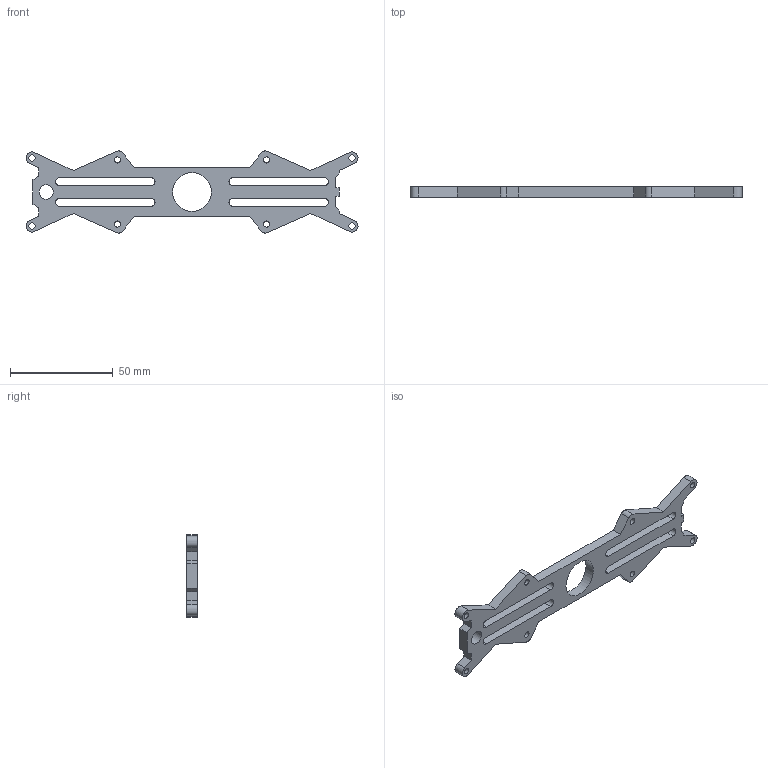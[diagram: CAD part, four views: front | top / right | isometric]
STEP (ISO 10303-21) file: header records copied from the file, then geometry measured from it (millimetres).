
FILE_DESCRIPTION(/* description */ (''),/* implementation_level */ '2;1');
FILE_NAME(/* name */ 'C:/Users/Administrator/Desktop/上盖板支架.step',/* time_stamp */ '2022-06-02T09:47:47+08:00',/* author */ (''),/* organization */ (''),/* preprocessor_version */ 'ST-DEVELOPER v19',/* originating_system */ 'Autodesk Translation Framework v11.7.0.108',/* authorisation */ '');
FILE_SCHEMA (('AUTOMOTIVE_DESIGN { 1 0 10303 214 3 1 1 }'));
Length unit declared in the file: millimetre
Products named in the file (1): 四旋翼无人机
Bounding box: 161.72 x 5 x 40.03 mm (x, y, z)
Volume: 15700.8 mm3; surface area: 11355.5 mm2
Topology: 1 solids, 1 shells, 68 faces, 198 edges, 132 vertices
Faces by surface type: plane 42, cylinder 26
Full cylindrical faces by diameter (mm): 3 x8, 7 x1, 18.868 x1
Entity records: 2332 total; most frequent: CARTESIAN_POINT 399, ORIENTED_EDGE 396, DIRECTION 388, EDGE_CURVE 198, LINE 146, VECTOR 146, VERTEX_POINT 132, AXIS2_PLACEMENT_3D 121
